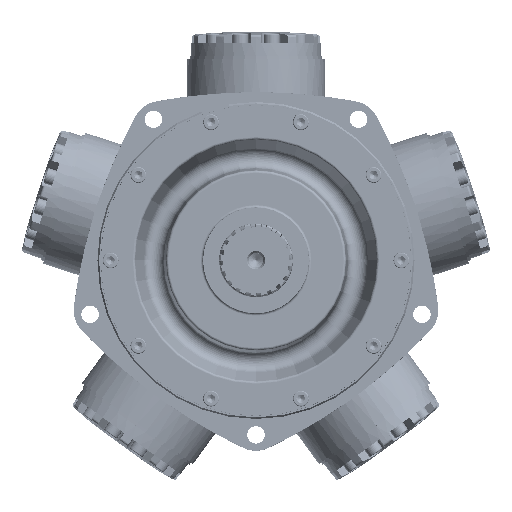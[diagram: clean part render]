
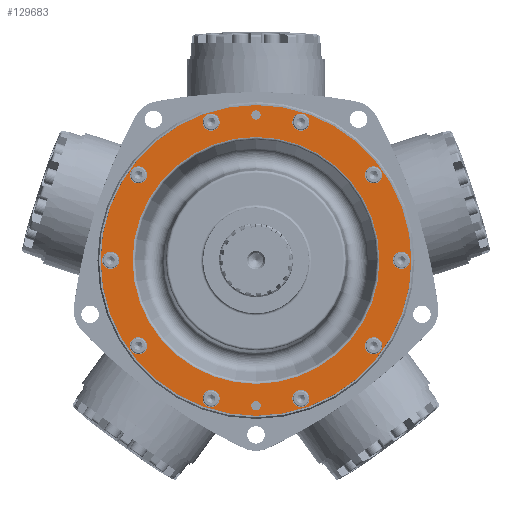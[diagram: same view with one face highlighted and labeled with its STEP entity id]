
A CAD part, top view. The second image highlights one B-rep face of the part: STEP entity #129683.
In plain terms, the highlighted planar face has unit normal (0, 0, 1).
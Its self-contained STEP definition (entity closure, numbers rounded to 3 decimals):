
#129524=CARTESIAN_POINT('',(0.,169.862,68.644));
#129525=DIRECTION('',(0.0,0.0,1.0));
#129526=DIRECTION('',(1.0,0.0,0.0));
#129527=AXIS2_PLACEMENT_3D('',#129524,#129525,#129526);
#129528=PLANE('',#129527);
#129529=CARTESIAN_POINT('',(0.,186.626,68.644));
#129530=VERTEX_POINT('',#129529);
#129531=CARTESIAN_POINT('',(0.,0.,68.644));
#129532=DIRECTION('',(0.0,0.0,1.0));
#129533=DIRECTION('',(0.0,-1.0,0.0));
#129534=AXIS2_PLACEMENT_3D('',#129531,#129532,#129533);
#129535=CIRCLE('',#129534,186.626);
#129536=EDGE_CURVE('',#129530,#129530,#129535,.T.);
#129537=ORIENTED_EDGE('',*,*,#129536,.T.);
#129538=EDGE_LOOP('',(#129537));
#129539=FACE_OUTER_BOUND('',#129538,.T.);
#129540=CARTESIAN_POINT('',(5.664,174.625,68.644));
#129541=VERTEX_POINT('',#129540);
#129542=CARTESIAN_POINT('',(0.,174.625,68.644));
#129543=DIRECTION('',(0.0,0.0,-1.0));
#129544=DIRECTION('',(1.0,0.0,0.0));
#129545=AXIS2_PLACEMENT_3D('',#129542,#129543,#129544);
#129546=CIRCLE('',#129545,5.664);
#129547=EDGE_CURVE('',#129541,#129541,#129546,.T.);
#129548=ORIENTED_EDGE('',*,*,#129547,.T.);
#129549=EDGE_LOOP('',(#129548));
#129550=FACE_BOUND('',#129549,.T.);
#129551=CARTESIAN_POINT('',(5.664,-174.625,68.644));
#129552=VERTEX_POINT('',#129551);
#129553=CARTESIAN_POINT('',(0.,-174.625,68.644));
#129554=DIRECTION('',(0.0,0.0,-1.0));
#129555=DIRECTION('',(1.0,0.0,0.0));
#129556=AXIS2_PLACEMENT_3D('',#129553,#129554,#129555);
#129557=CIRCLE('',#129556,5.664);
#129558=EDGE_CURVE('',#129552,#129552,#129557,.T.);
#129559=ORIENTED_EDGE('',*,*,#129558,.T.);
#129560=EDGE_LOOP('',(#129559));
#129561=FACE_BOUND('',#129560,.T.);
#129562=CARTESIAN_POINT('',(57.151,-175.892,68.644));
#129563=VERTEX_POINT('',#129562);
#129564=CARTESIAN_POINT('',(53.962,-166.078,68.644));
#129565=DIRECTION('',(0.,0.,-1.));
#129566=DIRECTION('',(0.309,-0.951,0.));
#129567=AXIS2_PLACEMENT_3D('',#129564,#129565,#129566);
#129568=CIRCLE('',#129567,10.319);
#129569=EDGE_CURVE('',#129563,#129563,#129568,.T.);
#129570=ORIENTED_EDGE('',*,*,#129569,.T.);
#129571=EDGE_LOOP('',(#129570));
#129572=FACE_BOUND('',#129571,.T.);
#129573=CARTESIAN_POINT('',(-57.151,-175.892,68.644));
#129574=VERTEX_POINT('',#129573);
#129575=CARTESIAN_POINT('',(-53.962,-166.078,68.644));
#129576=DIRECTION('',(0.,0.,-1.));
#129577=DIRECTION('',(-0.309,-0.951,0.));
#129578=AXIS2_PLACEMENT_3D('',#129575,#129576,#129577);
#129579=CIRCLE('',#129578,10.319);
#129580=EDGE_CURVE('',#129574,#129574,#129579,.T.);
#129581=ORIENTED_EDGE('',*,*,#129580,.T.);
#129582=EDGE_LOOP('',(#129581));
#129583=FACE_BOUND('',#129582,.T.);
#129584=CARTESIAN_POINT('',(-149.623,-108.707,68.644));
#129585=VERTEX_POINT('',#129584);
#129586=CARTESIAN_POINT('',(-141.275,-102.642,68.644));
#129587=DIRECTION('',(0.,0.,-1.0));
#129588=DIRECTION('',(-0.809,-0.588,0.));
#129589=AXIS2_PLACEMENT_3D('',#129586,#129587,#129588);
#129590=CIRCLE('',#129589,10.319);
#129591=EDGE_CURVE('',#129585,#129585,#129590,.T.);
#129592=ORIENTED_EDGE('',*,*,#129591,.T.);
#129593=EDGE_LOOP('',(#129592));
#129594=FACE_BOUND('',#129593,.T.);
#129595=CARTESIAN_POINT('',(-184.944,0.,68.644));
#129596=VERTEX_POINT('',#129595);
#129597=CARTESIAN_POINT('',(-174.625,0.,68.644));
#129598=DIRECTION('',(0.0,0.0,-1.0));
#129599=DIRECTION('',(-1.0,0.0,0.0));
#129600=AXIS2_PLACEMENT_3D('',#129597,#129598,#129599);
#129601=CIRCLE('',#129600,10.319);
#129602=EDGE_CURVE('',#129596,#129596,#129601,.T.);
#129603=ORIENTED_EDGE('',*,*,#129602,.T.);
#129604=EDGE_LOOP('',(#129603));
#129605=FACE_BOUND('',#129604,.T.);
#129606=CARTESIAN_POINT('',(-149.623,108.707,68.644));
#129607=VERTEX_POINT('',#129606);
#129608=CARTESIAN_POINT('',(-141.275,102.642,68.644));
#129609=DIRECTION('',(0.,0.,-1.));
#129610=DIRECTION('',(-0.809,0.588,0.));
#129611=AXIS2_PLACEMENT_3D('',#129608,#129609,#129610);
#129612=CIRCLE('',#129611,10.319);
#129613=EDGE_CURVE('',#129607,#129607,#129612,.T.);
#129614=ORIENTED_EDGE('',*,*,#129613,.T.);
#129615=EDGE_LOOP('',(#129614));
#129616=FACE_BOUND('',#129615,.T.);
#129617=CARTESIAN_POINT('',(-57.151,175.892,68.644));
#129618=VERTEX_POINT('',#129617);
#129619=CARTESIAN_POINT('',(-53.962,166.078,68.644));
#129620=DIRECTION('',(0.,0.,-1.));
#129621=DIRECTION('',(-0.309,0.951,0.));
#129622=AXIS2_PLACEMENT_3D('',#129619,#129620,#129621);
#129623=CIRCLE('',#129622,10.319);
#129624=EDGE_CURVE('',#129618,#129618,#129623,.T.);
#129625=ORIENTED_EDGE('',*,*,#129624,.T.);
#129626=EDGE_LOOP('',(#129625));
#129627=FACE_BOUND('',#129626,.T.);
#129628=CARTESIAN_POINT('',(57.151,175.892,68.644));
#129629=VERTEX_POINT('',#129628);
#129630=CARTESIAN_POINT('',(53.962,166.078,68.644));
#129631=DIRECTION('',(0.,0.,-1.));
#129632=DIRECTION('',(0.309,0.951,0.));
#129633=AXIS2_PLACEMENT_3D('',#129630,#129631,#129632);
#129634=CIRCLE('',#129633,10.319);
#129635=EDGE_CURVE('',#129629,#129629,#129634,.T.);
#129636=ORIENTED_EDGE('',*,*,#129635,.T.);
#129637=EDGE_LOOP('',(#129636));
#129638=FACE_BOUND('',#129637,.T.);
#129639=CARTESIAN_POINT('',(149.623,108.707,68.644));
#129640=VERTEX_POINT('',#129639);
#129641=CARTESIAN_POINT('',(141.275,102.642,68.644));
#129642=DIRECTION('',(0.,0.,-1.));
#129643=DIRECTION('',(0.809,0.588,0.));
#129644=AXIS2_PLACEMENT_3D('',#129641,#129642,#129643);
#129645=CIRCLE('',#129644,10.319);
#129646=EDGE_CURVE('',#129640,#129640,#129645,.T.);
#129647=ORIENTED_EDGE('',*,*,#129646,.T.);
#129648=EDGE_LOOP('',(#129647));
#129649=FACE_BOUND('',#129648,.T.);
#129650=CARTESIAN_POINT('',(149.623,-108.707,68.644));
#129651=VERTEX_POINT('',#129650);
#129652=CARTESIAN_POINT('',(141.275,-102.642,68.644));
#129653=DIRECTION('',(0.,0.,-1.));
#129654=DIRECTION('',(0.809,-0.588,0.));
#129655=AXIS2_PLACEMENT_3D('',#129652,#129653,#129654);
#129656=CIRCLE('',#129655,10.319);
#129657=EDGE_CURVE('',#129651,#129651,#129656,.T.);
#129658=ORIENTED_EDGE('',*,*,#129657,.T.);
#129659=EDGE_LOOP('',(#129658));
#129660=FACE_BOUND('',#129659,.T.);
#129661=CARTESIAN_POINT('',(184.944,0.,68.644));
#129662=VERTEX_POINT('',#129661);
#129663=CARTESIAN_POINT('',(174.625,0.,68.644));
#129664=DIRECTION('',(0.0,0.0,-1.0));
#129665=DIRECTION('',(1.0,0.0,0.0));
#129666=AXIS2_PLACEMENT_3D('',#129663,#129664,#129665);
#129667=CIRCLE('',#129666,10.319);
#129668=EDGE_CURVE('',#129662,#129662,#129667,.T.);
#129669=ORIENTED_EDGE('',*,*,#129668,.T.);
#129670=EDGE_LOOP('',(#129669));
#129671=FACE_BOUND('',#129670,.T.);
#129672=CARTESIAN_POINT('',(0.,148.273,68.644));
#129673=VERTEX_POINT('',#129672);
#129674=CARTESIAN_POINT('',(0.,0.,68.644));
#129675=DIRECTION('',(0.0,0.0,1.0));
#129676=DIRECTION('',(0.0,-1.0,0.0));
#129677=AXIS2_PLACEMENT_3D('',#129674,#129675,#129676);
#129678=CIRCLE('',#129677,148.273);
#129679=EDGE_CURVE('',#129673,#129673,#129678,.T.);
#129680=ORIENTED_EDGE('',*,*,#129679,.F.);
#129681=EDGE_LOOP('',(#129680));
#129682=FACE_BOUND('',#129681,.T.);
#129683=ADVANCED_FACE('',(#129539,#129550,#129561,#129572,#129583,#129594,#129605,#129616,#129627,#129638,#129649,#129660,#129671,#129682),#129528,.T.);
